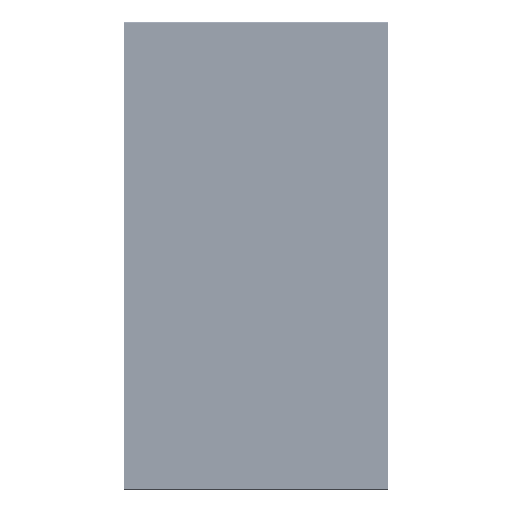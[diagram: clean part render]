
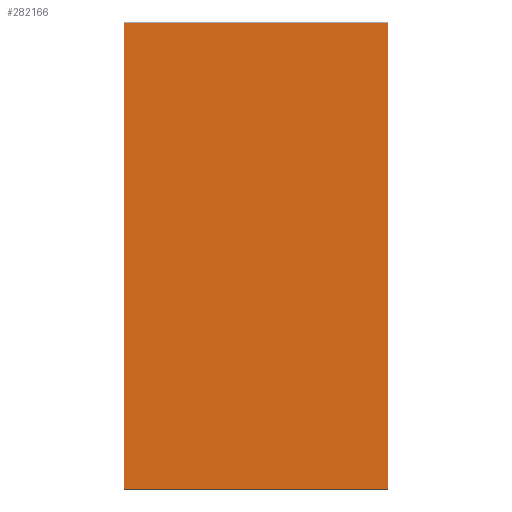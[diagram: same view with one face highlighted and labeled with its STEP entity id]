
A CAD part, front view. The second image highlights one B-rep face of the part: STEP entity #282166.
In plain terms, the highlighted planar face has unit normal (0, -1, 0).
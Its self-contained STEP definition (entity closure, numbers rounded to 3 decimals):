
#31327=FACE_OUTER_BOUND('',#49342,.T.);
#49342=EDGE_LOOP('',(#255296,#255297,#255298,#255299));
#81170=LINE('',#472021,#113314);
#81171=LINE('',#472038,#113315);
#81173=LINE('',#472081,#113317);
#81176=LINE('',#472124,#113320);
#113314=VECTOR('',#369126,1000.);
#113315=VECTOR('',#369129,1000.);
#113317=VECTOR('',#369133,1000.);
#113320=VECTOR('',#369138,1000.);
#143299=VERTEX_POINT('',#472009);
#143300=VERTEX_POINT('',#472020);
#143301=VERTEX_POINT('',#472037);
#143303=VERTEX_POINT('',#472080);
#180766=EDGE_CURVE('',#143299,#143300,#81170,.T.);
#180768=EDGE_CURVE('',#143301,#143299,#81171,.T.);
#180773=EDGE_CURVE('',#143300,#143303,#81173,.T.);
#180779=EDGE_CURVE('',#143303,#143301,#81176,.T.);
#255296=ORIENTED_EDGE('',*,*,#180773,.F.);
#255297=ORIENTED_EDGE('',*,*,#180766,.F.);
#255298=ORIENTED_EDGE('',*,*,#180768,.F.);
#255299=ORIENTED_EDGE('',*,*,#180779,.F.);
#268727=PLANE('',#301135);
#282166=ADVANCED_FACE('',(#31327),#268727,.T.);
#301135=AXIS2_PLACEMENT_3D('',#472125,#369139,#369140);
#369126=DIRECTION('',(0.,0.,1.));
#369129=DIRECTION('',(-1.,0.,0.));
#369133=DIRECTION('',(1.,0.,0.));
#369138=DIRECTION('',(0.,0.,-1.));
#369139=DIRECTION('center_axis',(0.,-1.,0.));
#369140=DIRECTION('ref_axis',(1.,0.,0.));
#472009=CARTESIAN_POINT('',(-606.505,-1.6,-341.91));
#472020=CARTESIAN_POINT('',(-606.505,-1.6,341.91));
#472021=CARTESIAN_POINT('',(-606.505,-1.6,-343.037));
#472037=CARTESIAN_POINT('',(606.505,-1.6,-341.91));
#472038=CARTESIAN_POINT('',(607.632,-1.6,-341.91));
#472080=CARTESIAN_POINT('',(606.505,-1.6,341.91));
#472081=CARTESIAN_POINT('',(-607.632,-1.6,341.91));
#472124=CARTESIAN_POINT('',(606.505,-1.6,343.037));
#472125=CARTESIAN_POINT('Origin',(564.595,-1.6,343.037));
